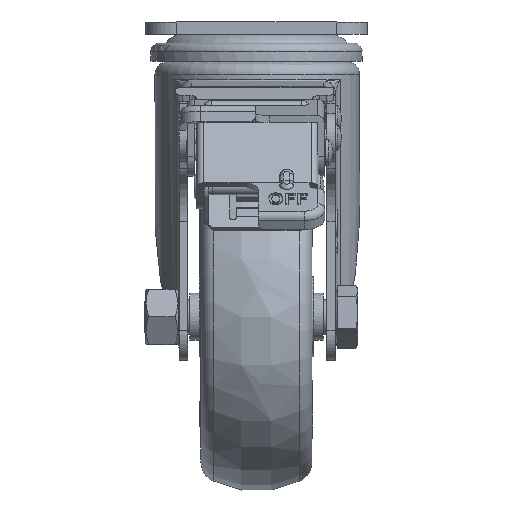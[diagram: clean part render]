
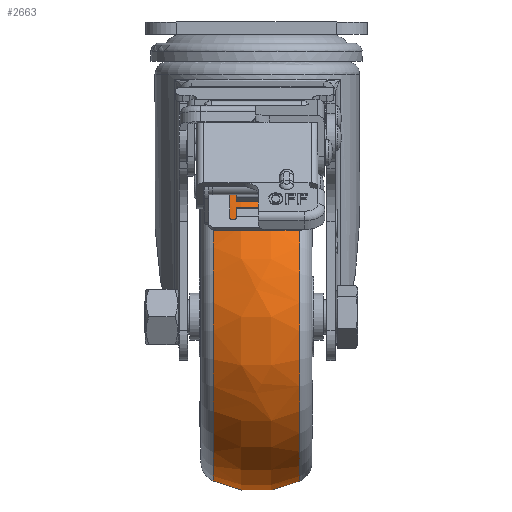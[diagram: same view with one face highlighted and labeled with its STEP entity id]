
A CAD part, left-side view. The second image highlights one B-rep face of the part: STEP entity #2663.
In plain terms, the highlighted free-form (B-spline) face has degree [3, 3] with [4, 7] control points.
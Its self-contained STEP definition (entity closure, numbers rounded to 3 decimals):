
#244=(
BOUNDED_SURFACE()
B_SPLINE_SURFACE(3,3,((#42551,#42552,#42553,#42554,#42555,#42556,#42557),
(#42558,#42559,#42560,#42561,#42562,#42563,#42564),(#42565,#42566,#42567,
#42568,#42569,#42570,#42571),(#42572,#42573,#42574,#42575,#42576,#42577,
#42578)),.UNSPECIFIED.,.F.,.T.,.F.)
B_SPLINE_SURFACE_WITH_KNOTS((4,4),(1,3,3,3,1),(0.,1.),(-0.5,0.,0.5,1.,1.5),
 .UNSPECIFIED.)
GEOMETRIC_REPRESENTATION_ITEM()
RATIONAL_B_SPLINE_SURFACE(((1.,0.333,0.333,1.,0.333,
0.333,1.),(0.939,0.313,0.313,
0.939,0.313,0.313,0.939),
(0.939,0.313,0.313,0.939,
0.313,0.313,0.939),(1.,0.333,
0.333,1.,0.333,0.333,1.)))
REPRESENTATION_ITEM('')
SURFACE()
);
#1607=FACE_BOUND('',#5802,.T.);
#1608=FACE_BOUND('',#5803,.T.);
#2663=ADVANCED_FACE('',(#1607,#1608),#244,.T.);
#5802=EDGE_LOOP('',(#12091));
#5803=EDGE_LOOP('',(#12092));
#6678=CIRCLE('',#23101,47.522);
#6679=CIRCLE('',#23102,47.522);
#12091=ORIENTED_EDGE('',*,*,#17794,.F.);
#12092=ORIENTED_EDGE('',*,*,#17795,.F.);
#14906=VERTEX_POINT('',#42548);
#14907=VERTEX_POINT('',#42550);
#17794=EDGE_CURVE('',#14906,#14906,#6678,.T.);
#17795=EDGE_CURVE('',#14907,#14907,#6679,.T.);
#23101=AXIS2_PLACEMENT_3D('',#42547,#28165,#28166);
#23102=AXIS2_PLACEMENT_3D('',#42549,#28167,#28168);
#28165=DIRECTION('',(0.,-1.,0.));
#28166=DIRECTION('',(-0.707,0.,0.707));
#28167=DIRECTION('',(0.,1.,0.));
#28168=DIRECTION('',(0.707,0.,-0.707));
#42547=CARTESIAN_POINT('',(-32.,-12.5,-85.));
#42548=CARTESIAN_POINT('',(-65.603,-12.5,-51.397));
#42549=CARTESIAN_POINT('',(-32.,12.5,-85.));
#42550=CARTESIAN_POINT('',(1.603,12.5,-118.603));
#42551=CARTESIAN_POINT('',(-79.522,-12.5,-85.));
#42552=CARTESIAN_POINT('',(-79.522,-12.5,-180.044));
#42553=CARTESIAN_POINT('',(15.522,-12.5,-180.044));
#42554=CARTESIAN_POINT('',(15.522,-12.5,-85.));
#42555=CARTESIAN_POINT('',(15.522,-12.5,10.044));
#42556=CARTESIAN_POINT('',(-79.522,-12.5,10.044));
#42557=CARTESIAN_POINT('',(-79.522,-12.5,-85.));
#42558=CARTESIAN_POINT('',(-83.218,-4.436,-85.));
#42559=CARTESIAN_POINT('',(-83.218,-4.436,-187.436));
#42560=CARTESIAN_POINT('',(19.218,-4.436,-187.436));
#42561=CARTESIAN_POINT('',(19.218,-4.436,-85.));
#42562=CARTESIAN_POINT('',(19.218,-4.436,17.436));
#42563=CARTESIAN_POINT('',(-83.218,-4.436,17.436));
#42564=CARTESIAN_POINT('',(-83.218,-4.436,-85.));
#42565=CARTESIAN_POINT('',(-83.218,4.436,-85.));
#42566=CARTESIAN_POINT('',(-83.218,4.436,-187.436));
#42567=CARTESIAN_POINT('',(19.218,4.436,-187.436));
#42568=CARTESIAN_POINT('',(19.218,4.436,-85.));
#42569=CARTESIAN_POINT('',(19.218,4.436,17.436));
#42570=CARTESIAN_POINT('',(-83.218,4.436,17.436));
#42571=CARTESIAN_POINT('',(-83.218,4.436,-85.));
#42572=CARTESIAN_POINT('',(-79.522,12.5,-85.));
#42573=CARTESIAN_POINT('',(-79.522,12.5,-180.044));
#42574=CARTESIAN_POINT('',(15.522,12.5,-180.044));
#42575=CARTESIAN_POINT('',(15.522,12.5,-85.));
#42576=CARTESIAN_POINT('',(15.522,12.5,10.044));
#42577=CARTESIAN_POINT('',(-79.522,12.5,10.044));
#42578=CARTESIAN_POINT('',(-79.522,12.5,-85.));
